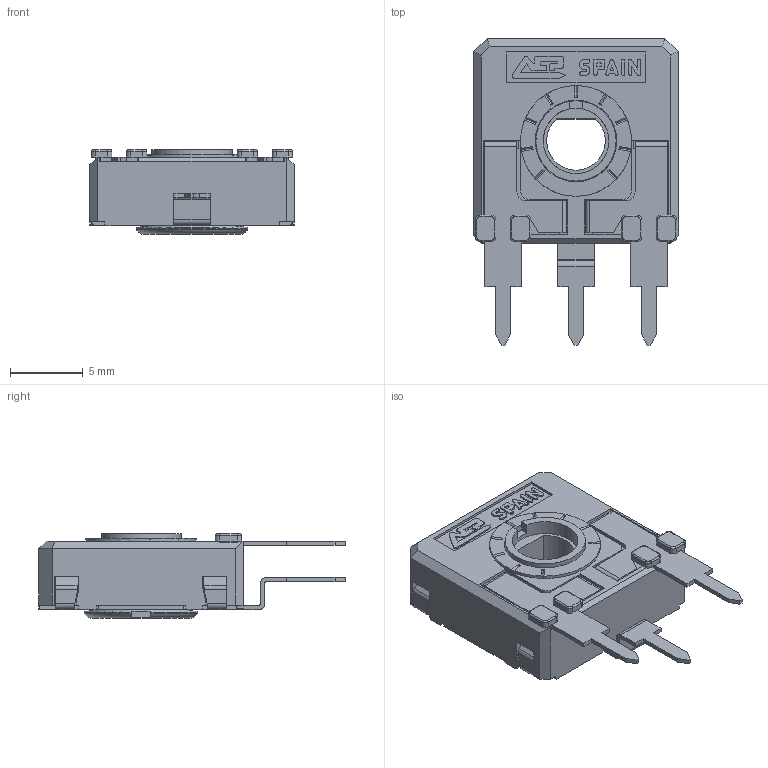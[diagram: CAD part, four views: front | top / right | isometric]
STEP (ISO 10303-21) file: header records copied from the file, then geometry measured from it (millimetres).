
FILE_DESCRIPTION(/* description */ (''),/* implementation_level */ '2;1');
FILE_NAME(/* name */ '\\SERVERACP\intercambio\Ignacio Santa Cecilia\Nueva WEB 2025\CA14FH2,5 RT-RO.stp',/* time_stamp */ '2025-06-12T09:29:57+02:00',/* author */ ('CEM'),/* organization */ (''),/* preprocessor_version */ 'ST-DEVELOPER v17',/* originating_system */ 'Autodesk Inventor 2018',/* authorisation */ '');
FILE_SCHEMA (('AUTOMOTIVE_DESIGN { 1 0 10303 214 3 1 1 }'));
Length unit declared in the file: millimetre
Products named in the file (1): CA14NH2,5
Bounding box: 14 x 21 x 5.8 mm (x, y, z)
Volume: 530.1 mm3; surface area: 1460.2 mm2
Topology: 1 solids, 1 shells, 664 faces, 1875 edges, 1207 vertices
Faces by surface type: plane 493, cylinder 134, torus 23, bspline 8, cone 6
Full cylindrical faces by diameter (mm): 4.5 x1, 5.5 x1, 5.6 x1, 5.752 x1, 6.8 x1, 7.6 x1
Entity records: 21678 total; most frequent: CARTESIAN_POINT 4044, ORIENTED_EDGE 3750, DIRECTION 3497, EDGE_CURVE 1875, LINE 1477, VECTOR 1477, VERTEX_POINT 1207, AXIS2_PLACEMENT_3D 1010
